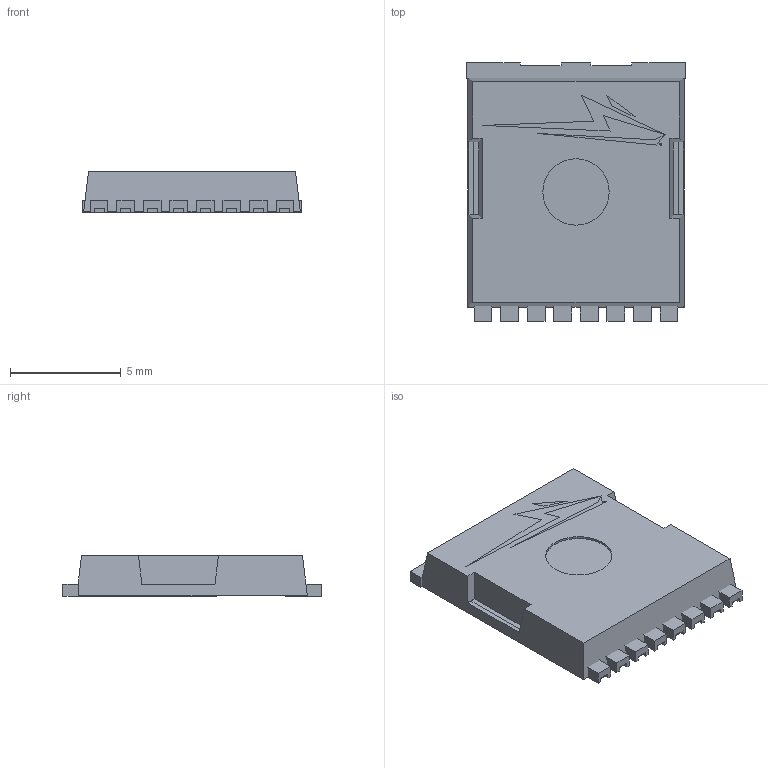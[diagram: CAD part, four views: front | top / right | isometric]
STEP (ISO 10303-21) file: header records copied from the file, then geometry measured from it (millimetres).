
FILE_DESCRIPTION (( 'STEP AP214' ), '1' );
FILE_NAME ('TOLL_06232022_step.STEP', '2022-07-25T13:03:44', ( '' ), ( '' ), 'SwSTEP 2.0', 'SolidWorks 2021', '' );
FILE_SCHEMA (( 'AUTOMOTIVE_DESIGN' ));
Length unit declared in the file: millimetre
Products named in the file (1): TOLL_06232022_step
Bounding box: 9.9 x 11.68 x 1.85 mm (x, y, z)
Volume: 212.9 mm3; surface area: 462.1 mm2
Topology: 5 solids, 5 shells, 118 faces, 327 edges, 227 vertices
Faces by surface type: plane 116, cylinder 2
Entity records: 4247 total; most frequent: CARTESIAN_POINT 673, ORIENTED_EDGE 654, DIRECTION 575, EDGE_CURVE 327, LINE 317, VECTOR 317, VERTEX_POINT 227, AXIS2_PLACEMENT_3D 129
